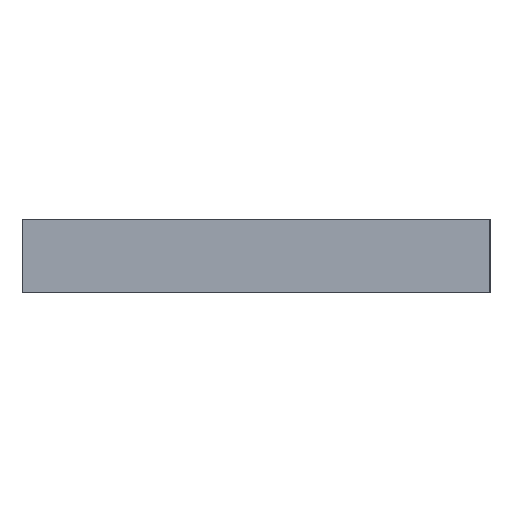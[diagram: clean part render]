
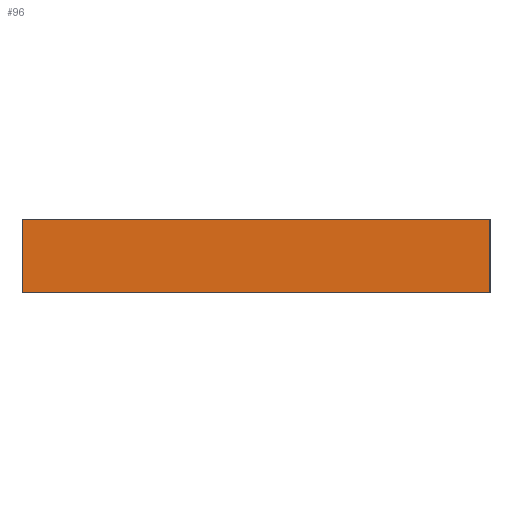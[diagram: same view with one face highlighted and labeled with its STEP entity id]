
A CAD part, left-side view. The second image highlights one B-rep face of the part: STEP entity #96.
In plain terms, the highlighted planar face has unit normal (-1, 0, 0).
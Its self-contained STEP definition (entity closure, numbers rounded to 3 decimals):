
#41=PLANE('',#654);
#96=ADVANCED_FACE('',(#149),#41,.F.);
#149=FACE_OUTER_BOUND('',#176,.T.);
#176=EDGE_LOOP('',(#298,#299,#300,#301));
#298=ORIENTED_EDGE('',*,*,#508,.T.);
#299=ORIENTED_EDGE('',*,*,#509,.F.);
#300=ORIENTED_EDGE('',*,*,#510,.F.);
#301=ORIENTED_EDGE('',*,*,#507,.T.);
#447=VERTEX_POINT('',#984);
#449=VERTEX_POINT('',#988);
#450=VERTEX_POINT('',#992);
#451=VERTEX_POINT('',#994);
#507=EDGE_CURVE('',#447,#449,#577,.T.);
#508=EDGE_CURVE('',#449,#450,#578,.T.);
#509=EDGE_CURVE('',#451,#450,#579,.T.);
#510=EDGE_CURVE('',#447,#451,#580,.T.);
#577=LINE('',#989,#619);
#578=LINE('',#991,#620);
#579=LINE('',#993,#621);
#580=LINE('',#995,#622);
#619=VECTOR('',#775,1.);
#620=VECTOR('',#778,1.);
#621=VECTOR('',#779,1.);
#622=VECTOR('',#780,1.);
#654=AXIS2_PLACEMENT_3D('',#996,#781,#782);
#775=DIRECTION('',(0.,0.,1.));
#778=DIRECTION('',(0.,1.,0.));
#779=DIRECTION('',(0.,0.,1.));
#780=DIRECTION('',(0.,1.,0.));
#781=DIRECTION('',(1.,0.,0.));
#782=DIRECTION('',(0.,1.,0.));
#984=CARTESIAN_POINT('',(-14.95,-14.4,-4.5));
#988=CARTESIAN_POINT('',(-14.95,-14.4,0.));
#989=CARTESIAN_POINT('',(-14.95,-14.4,-4.5));
#991=CARTESIAN_POINT('',(-14.95,0.,0.));
#992=CARTESIAN_POINT('',(-14.95,14.4,0.));
#993=CARTESIAN_POINT('',(-14.95,14.4,-4.5));
#994=CARTESIAN_POINT('',(-14.95,14.4,-4.5));
#995=CARTESIAN_POINT('',(-14.95,-14.4,-4.5));
#996=CARTESIAN_POINT('',(-14.95,0.,-4.5));
